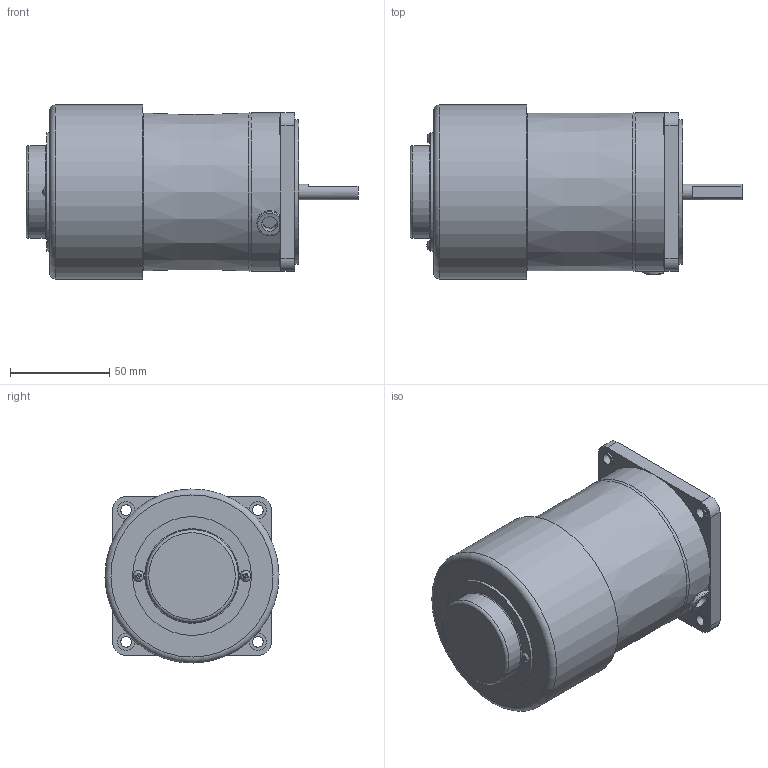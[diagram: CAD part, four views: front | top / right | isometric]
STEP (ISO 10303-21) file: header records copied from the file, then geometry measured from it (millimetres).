
FILE_DESCRIPTION((''),'2;1');
FILE_NAME('D:\STP파일\25W MOTOR\ES TYPE\S8I15D-ES.stp','2013-05-20T16:39:35',('leebh'),(''),'Autodesk Inventor 2011','Autodesk Inventor 2011','');
FILE_SCHEMA(('AUTOMOTIVE_DESIGN { 1 0 10303 214 1 1 1 1 }'));
Length unit declared in the file: millimetre
Products named in the file (1): 부품3
Bounding box: 167.5 x 87.79 x 87.79 mm (x, y, z)
Volume: 693890.1 mm3; surface area: 53694.7 mm2
Topology: 1 solids, 6 shells, 145 faces, 332 edges, 217 vertices
Faces by surface type: plane 88, cylinder 44, torus 10, bspline 2, cone 1
Full cylindrical faces by diameter (mm): 3 x2, 3.5 x2, 5 x1, 5.5 x4, 5.6 x2, 8 x2, 8.5 x4, 34 x1, 44.7 x1, 46.7 x1, 47.7 x1, 59.9 x1, 73 x1, 78 x1, 80 x1, 87.8 x1
Entity records: 4165 total; most frequent: CARTESIAN_POINT 974, DIRECTION 642, ORIENTED_EDGE 570, EDGE_CURVE 285, AXIS2_PLACEMENT_3D 244, EDGE_LOOP 215, VERTEX_POINT 208, VECTOR 154
